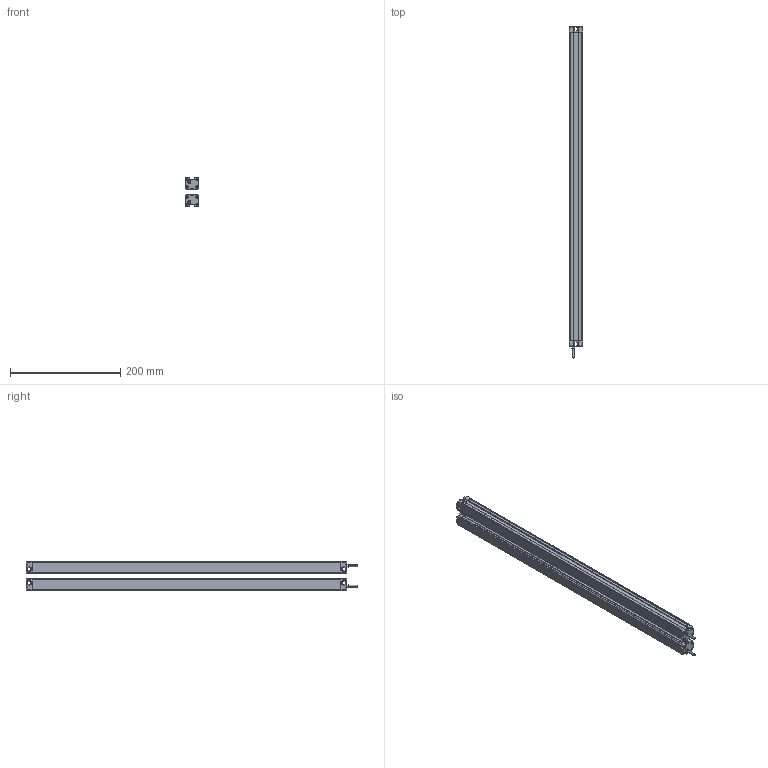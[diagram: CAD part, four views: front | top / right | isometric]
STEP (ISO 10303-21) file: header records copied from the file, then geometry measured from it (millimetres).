
FILE_DESCRIPTION (( 'STEP AP214' ), '1' );
FILE_NAME ('MTC5610.STEP', '2022-12-02T08:20:14', ( '' ), ( '' ), 'SwSTEP 2.0', 'SolidWorks 2018', '' );
FILE_SCHEMA (( 'AUTOMOTIVE_DESIGN' ));
Length unit declared in the file: millimetre
Products named in the file (5): MTC5610; MTC waike^MTC; P01^MTC; P02^MTC; 噩砃P02^MTC
Assembly tree (6 placements, depth 2):
  MTC5610
    MTC waike^MTC  x2
    P01^MTC  x2
    P02^MTC
    噩砃P02^MTC
Bounding box: 25 x 602 x 51.4 mm (x, y, z)
Volume: 195484.5 mm3; surface area: 266492.5 mm2
Topology: 8 solids, 8 shells, 480 faces, 1396 edges, 924 vertices
Faces by surface type: plane 272, cylinder 208
Entity records: 10886 total; most frequent: DIRECTION 1881, CARTESIAN_POINT 1878, ORIENTED_EDGE 1846, EDGE_CURVE 923, AXIS2_PLACEMENT_3D 637, VERTEX_POINT 610, VECTOR 607, LINE 607
